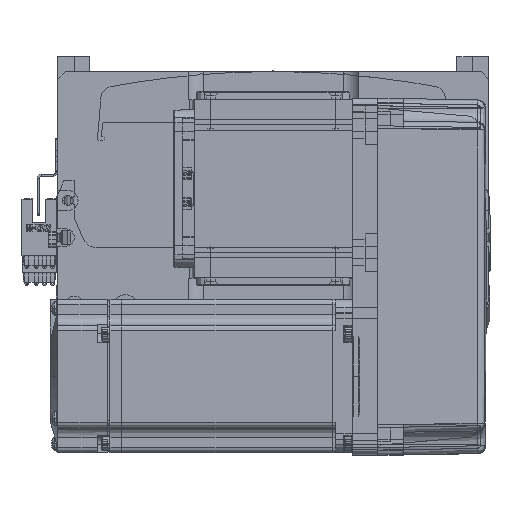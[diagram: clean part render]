
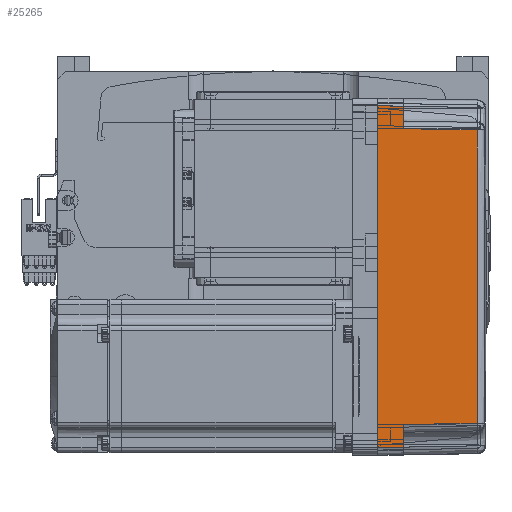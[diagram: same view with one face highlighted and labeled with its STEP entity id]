
A CAD part, top view. The second image highlights one B-rep face of the part: STEP entity #25265.
In plain terms, the highlighted planar face has unit normal (0.018, 0, 1) as drawn and (0, 1, 0.017) by its records, which use the part's own axes.
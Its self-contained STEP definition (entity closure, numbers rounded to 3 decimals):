
#1057 = CARTESIAN_POINT ( 'NONE',  ( 70., 36., 0. ) ) ;
#1059 = CARTESIAN_POINT ( 'NONE',  ( -66.826, 35.825, 10. ) ) ;
#1373 = ORIENTED_EDGE ( 'NONE', *, *, #33549, .T. ) ;
#2111 = VECTOR ( 'NONE', #44873, 1000. ) ;
#2135 = VERTEX_POINT ( 'NONE', #17320 ) ;
#3519 = DIRECTION ( 'NONE',  ( 0.017, 0.017, -1. ) ) ;
#4845 = VERTEX_POINT ( 'NONE', #38730 ) ;
#5349 = CARTESIAN_POINT ( 'NONE',  ( -67., 36., 0. ) ) ;
#8169 = LINE ( 'NONE', #14080, #56063 ) ;
#9529 = EDGE_CURVE ( 'NONE', #19982, #4845, #26675, .T. ) ;
#11940 = CARTESIAN_POINT ( 'NONE',  ( 66.826, 35.825, 10. ) ) ;
#12719 = EDGE_CURVE ( 'NONE', #22500, #70031, #49427, .T. ) ;
#12988 = LINE ( 'NONE', #61593, #2111 ) ;
#13728 = VECTOR ( 'NONE', #41586, 1000. ) ;
#14080 = CARTESIAN_POINT ( 'NONE',  ( 67.001, 36.001, -0.052 ) ) ;
#17320 = CARTESIAN_POINT ( 'NONE',  ( 67., 36., 0. ) ) ;
#17854 = CARTESIAN_POINT ( 'NONE',  ( 70., 35.825, 10. ) ) ;
#18176 = CARTESIAN_POINT ( 'NONE',  ( 58., 35.825, 10. ) ) ;
#19652 = DIRECTION ( 'NONE',  ( -0.017, -0.017, 1. ) ) ;
#19982 = VERTEX_POINT ( 'NONE', #41878 ) ;
#22500 = VERTEX_POINT ( 'NONE', #5349 ) ;
#22819 = LINE ( 'NONE', #17854, #13728 ) ;
#24269 = EDGE_CURVE ( 'NONE', #4845, #48294, #39844, .T. ) ;
#24489 = ORIENTED_EDGE ( 'NONE', *, *, #9529, .T. ) ;
#25048 = ORIENTED_EDGE ( 'NONE', *, *, #55659, .T. ) ;
#25265 = ADVANCED_FACE ( 'NONE', ( #37396 ), #41195, .T. ) ;
#26675 = B_SPLINE_CURVE_WITH_KNOTS ( 'NONE', 3,
 ( #58086, #70446, #41917, #46958 ),
 .UNSPECIFIED., .F., .F.,
 ( 4, 4 ),
 ( 0., 1. ),
 .UNSPECIFIED. ) ;
#30478 = VECTOR ( 'NONE', #56750, 1000. ) ;
#32359 = DIRECTION ( 'NONE',  ( 0.017, -0.017, 1. ) ) ;
#33304 = LINE ( 'NONE', #60891, #54910 ) ;
#33549 = EDGE_CURVE ( 'NONE', #70031, #38799, #22819, .T. ) ;
#34044 = ORIENTED_EDGE ( 'NONE', *, *, #62032, .T. ) ;
#35336 = ORIENTED_EDGE ( 'NONE', *, *, #24269, .T. ) ;
#36091 = ORIENTED_EDGE ( 'NONE', *, *, #42994, .F. ) ;
#37180 = VECTOR ( 'NONE', #73251, 1000. ) ;
#37396 = FACE_OUTER_BOUND ( 'NONE', #55618, .T. ) ;
#38730 = CARTESIAN_POINT ( 'NONE',  ( 57.495, 35.32, 38.985 ) ) ;
#38799 = VERTEX_POINT ( 'NONE', #53349 ) ;
#39844 = LINE ( 'NONE', #67424, #60389 ) ;
#41195 = PLANE ( 'NONE',  #67040 ) ;
#41440 = DIRECTION ( 'NONE',  ( 0., -0.017, 1. ) ) ;
#41586 = DIRECTION ( 'NONE',  ( 1., 0., 0. ) ) ;
#41878 = CARTESIAN_POINT ( 'NONE',  ( -57.495, 35.32, 38.985 ) ) ;
#41917 = CARTESIAN_POINT ( 'NONE',  ( 19.165, 35.316, 39.181 ) ) ;
#42994 = EDGE_CURVE ( 'NONE', #2135, #61651, #8169, .T. ) ;
#43690 = CARTESIAN_POINT ( 'NONE',  ( 70., 35.825, 10. ) ) ;
#44395 = CARTESIAN_POINT ( 'NONE',  ( -67., 36., 0. ) ) ;
#44873 = DIRECTION ( 'NONE',  ( 1., 0., 0. ) ) ;
#46281 = ORIENTED_EDGE ( 'NONE', *, *, #47614, .F. ) ;
#46958 = CARTESIAN_POINT ( 'NONE',  ( 57.495, 35.32, 38.985 ) ) ;
#47614 = EDGE_CURVE ( 'NONE', #22500, #2135, #12988, .T. ) ;
#48294 = VERTEX_POINT ( 'NONE', #18176 ) ;
#49427 = LINE ( 'NONE', #44395, #30478 ) ;
#53295 = DIRECTION ( 'NONE',  ( 0., 1., 0.017 ) ) ;
#53349 = CARTESIAN_POINT ( 'NONE',  ( -58., 35.825, 10. ) ) ;
#54910 = VECTOR ( 'NONE', #32359, 1000. ) ;
#55618 = EDGE_LOOP ( 'NONE', ( #65178, #1373, #25048, #24489, #35336, #34044, #36091, #46281 ) ) ;
#55659 = EDGE_CURVE ( 'NONE', #38799, #19982, #33304, .T. ) ;
#56063 = VECTOR ( 'NONE', #19652, 1000. ) ;
#56750 = DIRECTION ( 'NONE',  ( 0.017, -0.017, 1. ) ) ;
#58086 = CARTESIAN_POINT ( 'NONE',  ( -57.495, 35.32, 38.985 ) ) ;
#60389 = VECTOR ( 'NONE', #3519, 1000. ) ;
#60669 = LINE ( 'NONE', #43690, #37180 ) ;
#60891 = CARTESIAN_POINT ( 'NONE',  ( -58., 35.825, 10. ) ) ;
#61593 = CARTESIAN_POINT ( 'NONE',  ( 0., 36., 0. ) ) ;
#61651 = VERTEX_POINT ( 'NONE', #11940 ) ;
#62032 = EDGE_CURVE ( 'NONE', #48294, #61651, #60669, .T. ) ;
#65178 = ORIENTED_EDGE ( 'NONE', *, *, #12719, .T. ) ;
#67040 = AXIS2_PLACEMENT_3D ( 'NONE', #1057, #53295, #41440 ) ;
#67424 = CARTESIAN_POINT ( 'NONE',  ( 57.495, 35.32, 38.985 ) ) ;
#70031 = VERTEX_POINT ( 'NONE', #1059 ) ;
#70446 = CARTESIAN_POINT ( 'NONE',  ( -19.165, 35.316, 39.181 ) ) ;
#73251 = DIRECTION ( 'NONE',  ( 1., 0., 0. ) ) ;
